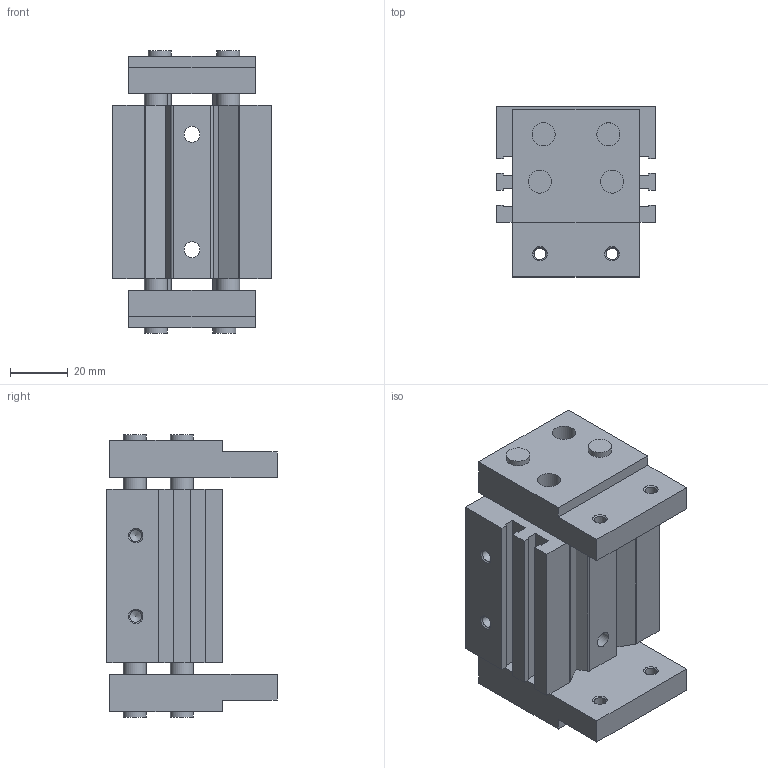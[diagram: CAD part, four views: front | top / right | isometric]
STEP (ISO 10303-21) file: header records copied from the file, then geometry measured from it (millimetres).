
FILE_DESCRIPTION( ( 'STEP AP214' ), '1' );
FILE_NAME( 'C:/Users/ashearer/Desktop/Mindman New CAD/Grippers/MCHX-16-30M_68_.stp', ' ', ( ' ' ), ( ' ' ), 'PSStep 15.0.47', 'PARTsolutions', ' ' );
FILE_SCHEMA( ( 'AUTOMOTIVE_DESIGN { 1 0 10303 214 1 1 1 1 }' ) );
Length unit declared in the file: millimetre
Products named in the file (3): MCHX-16-30M(68); _MCHX-16-30M_b; _MCHX-16-30M_f
Assembly tree (3 placements, depth 2):
  MCHX-16-30M(68)
    _MCHX-16-30M_b
    _MCHX-16-30M_f  x2
Bounding box: 55 x 59 x 98 mm (x, y, z)
Volume: 176679.5 mm3; surface area: 50807.2 mm2
Topology: 3 solids, 3 shells, 135 faces, 336 edges, 218 vertices
Faces by surface type: plane 73, cylinder 38, cone 24
Full cylindrical faces by diameter (mm): 3 x1, 4.134 x12, 5.5 x2, 8 x16, 23 x1
Entity records: 4036 total; most frequent: DIRECTION 530, CARTESIAN_POINT 523, ORIENTED_EDGE 456, EDGE_CURVE 228, AXIS2_PLACEMENT_3D 187, EDGE_LOOP 182, VERTEX_POINT 180, LINE 156
